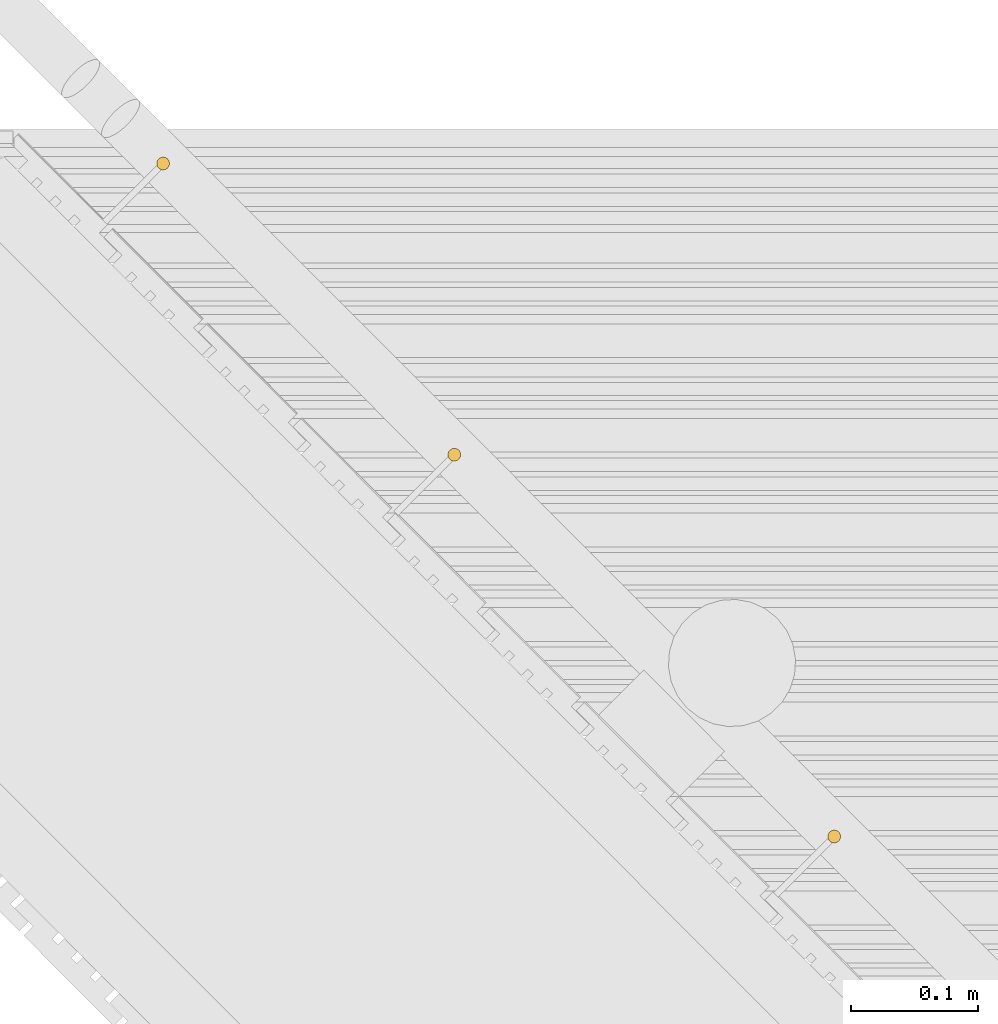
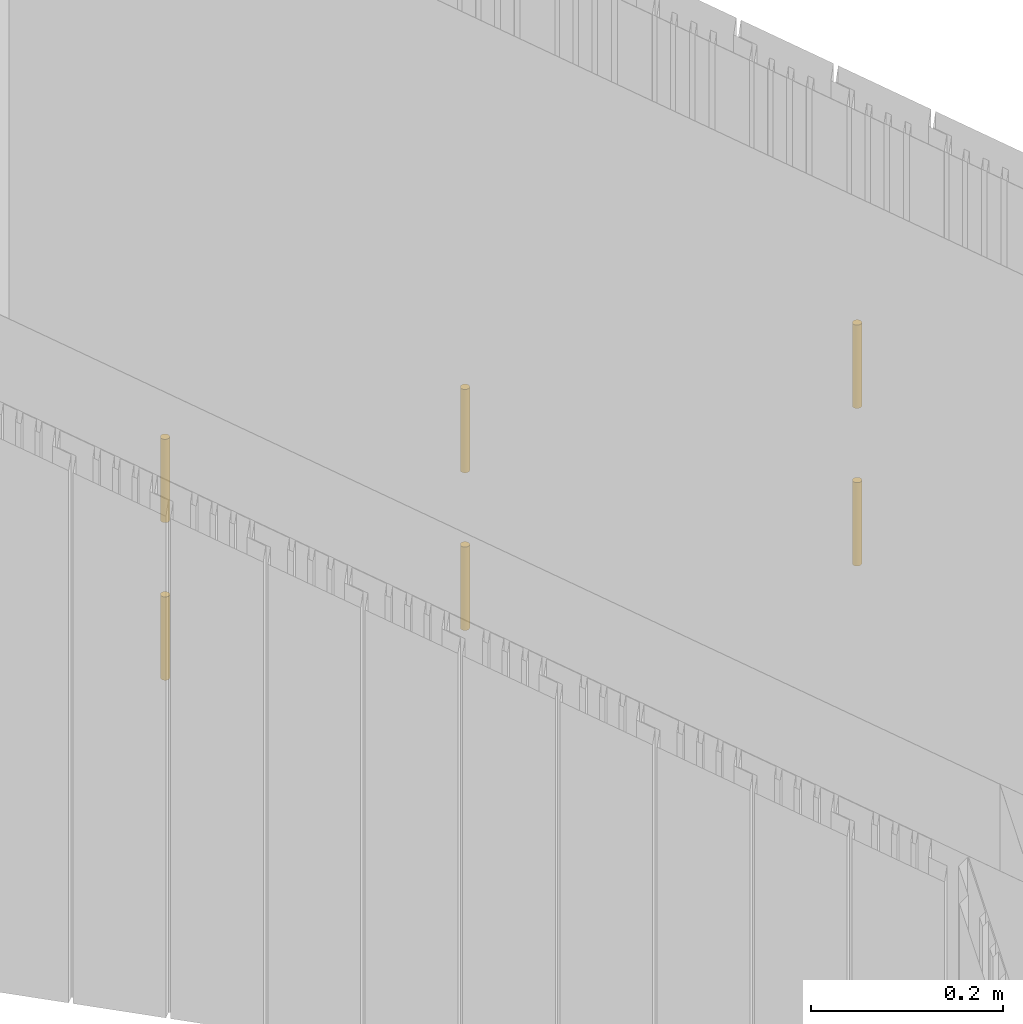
# One storey, part 162 of 418: 6 railings.
"""IFC2X3 building model written with IfcOpenShell, lengths in millimetres."""

from ifc_helpers import new_model, entity, si_unit, converted_unit, derived_unit, money_unit, direction, frame, origin_with_axes, origin_2d_with_axis, place, context, subcontext, project, spatial, circle, extrude, material, type_object, element, save


model = new_model("IFC2X3")

# Units and contexts
model_context = context("Model", 3, precision=0.01, world=origin_with_axes(), true_north=direction((0.0, 1.0)))
body_context = subcontext(model_context, "Body", "Model", "MODEL_VIEW")
ifc_project = project(units=[si_unit("LENGTHUNIT", "METRE", prefix="MILLI"), si_unit("AREAUNIT", "SQUARE_METRE"), si_unit("VOLUMEUNIT", "CUBIC_METRE"), converted_unit("PLANEANGLEUNIT", "DEGREE", entity("IfcPlaneAngleMeasure", 0.0174532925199), si_unit("PLANEANGLEUNIT", "RADIAN"), dimensions=[0, 0, 0, 0, 0, 0, 0]), si_unit("SOLIDANGLEUNIT", "STERADIAN"), money_unit("EUR"), converted_unit("TIMEUNIT", "Year", entity("IfcTimeMeasure", 31556926.0), si_unit("TIMEUNIT", "SECOND"), dimensions=[0, 0, 1, 0, 0, 0, 0]), si_unit("MASSUNIT", "GRAM", prefix="KILO"), si_unit("THERMODYNAMICTEMPERATUREUNIT", "DEGREE_CELSIUS"), si_unit("LUMINOUSINTENSITYUNIT", "LUMEN"), si_unit("ENERGYUNIT", "JOULE", prefix="MEGA"), derived_unit("THERMALCONDUCTANCEUNIT", [(si_unit("POWERUNIT", "WATT"), 1), (si_unit("LENGTHUNIT", "METRE"), -1), (si_unit("THERMODYNAMICTEMPERATUREUNIT", "KELVIN"), -1)]), derived_unit("SPECIFICHEATCAPACITYUNIT", [(si_unit("ENERGYUNIT", "JOULE"), 1), (si_unit("MASSUNIT", "GRAM", prefix="KILO"), -1), (si_unit("THERMODYNAMICTEMPERATUREUNIT", "KELVIN"), -1)]), derived_unit("MASSDENSITYUNIT", [(si_unit("MASSUNIT", "GRAM", prefix="KILO"), 1), (si_unit("VOLUMEUNIT", "CUBIC_METRE"), -1)])], contexts=[model_context])

# Site, building, storey
site_placement = place(None, origin_with_axes())
site = spatial("IfcSite", under=ifc_project, at=site_placement, Name="Paldiski mnt 245/1, Tallinn, Harjumaa", CompositionType="COMPLEX")
building_placement = place(site_placement, origin_with_axes())
building = spatial("IfcBuilding", under=site, at=building_placement, Name="RKAS Hoone üldnimetus (kasutust iseloomustav) -> IFC Project Manager -> SOLIBRI", CompositionType="ELEMENT")
storey_placement = place(building_placement, origin_with_axes())
storey = spatial("IfcBuildingStorey", under=building, at=storey_placement, Name="Esimene korrus", CompositionType="ELEMENT", Elevation=0.0)

# Railings
ifc_material = material(Name="ET-07_Teras - Roostevaba")
railing_type = type_object("IfcRailingType", Name="ET-07_Teras - Roostevaba D10", PredefinedType="NOTDEFINED")
for number, where, z_axis, x_axis in (
    (1, (-53530.8821885, 39533.8243129, 187.887210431), (0.0, 0.0, 1.0), (0.707106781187, 0.707106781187, 0.0)),
    (2, (-53759.6217692, 39762.5638936, 266.275284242), (0.0, 0.0, 1.0), (0.707106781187, 0.707106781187, 0.0)),
    (3, (-53759.6217692, 39762.5638936, 65.8533843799), (0.0, 0.0, 1.0), (0.707106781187, 0.707106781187, 0.0)),
    (4, (-53530.8821885, 39533.8243129, 388.309110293), (0.0, 0.0, 1.0), (0.707106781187, 0.707106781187, 0.0)),
    (5, (-53232.4530882, 39233.939526, 347.113326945), (0.0, 0.0, 1.0), (0.707106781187, 0.707106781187, 0.0)),
    (6, (-53232.4530882, 39233.939526, 547.535226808), (0.0, 0.0, 1.0), (0.707106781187, 0.707106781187, 0.0)),
):
    element("IfcRailing", number, at=place(storey_placement, frame(where, z_axis=z_axis, x_axis=x_axis)), inside=storey, type_object=railing_type, material=ifc_material, Name="Trepiire", PredefinedType="NOTDEFINED", context=body_context, shape_type="SweptSolid", body=[
        extrude(circle(Radius=5.0, at=origin_2d_with_axis()), origin_with_axes(), (0.0, 0.0, 1.0), 106.0),
    ])

save(model, "model.ifc")
